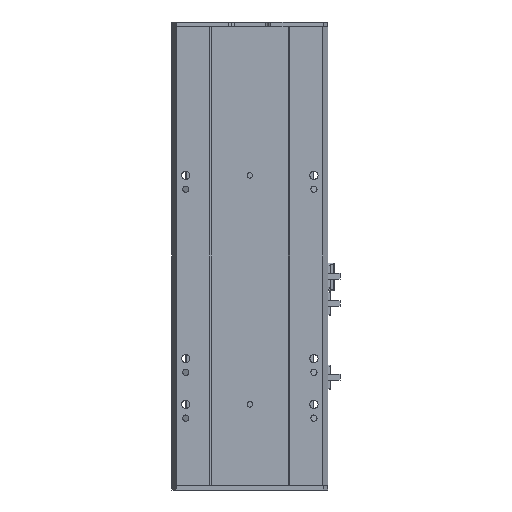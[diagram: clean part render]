
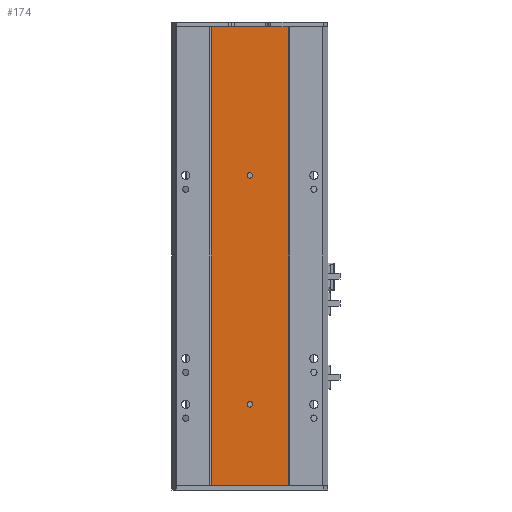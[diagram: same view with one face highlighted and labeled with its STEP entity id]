
A CAD part, front view. The second image highlights one B-rep face of the part: STEP entity #174.
In plain terms, the highlighted planar face has unit normal (0, -1, 0).
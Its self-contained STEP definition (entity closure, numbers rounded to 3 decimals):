
#128 = EDGE_LOOP ( 'NONE', ( #27129, #17865 ) ) ;
#174 = ADVANCED_FACE ( 'NONE', ( #28296, #3400, #16138 ), #23345, .F. ) ;
#269 = AXIS2_PLACEMENT_3D ( 'NONE', #11511, #27433, #13772 ) ;
#465 = DIRECTION ( 'NONE',  ( -1., 0., 0. ) ) ;
#619 = DIRECTION ( 'NONE',  ( 0., 0., 1. ) ) ;
#630 = LINE ( 'NONE', #9638, #22619 ) ;
#987 = ORIENTED_EDGE ( 'NONE', *, *, #20400, .T. ) ;
#1572 = VERTEX_POINT ( 'NONE', #16932 ) ;
#1776 = EDGE_CURVE ( 'NONE', #13521, #14939, #26409, .T. ) ;
#1841 = CIRCLE ( 'NONE', #20092, 3. ) ;
#3400 = FACE_BOUND ( 'NONE', #128, .T. ) ;
#3779 = EDGE_CURVE ( 'NONE', #14939, #13521, #26356, .T. ) ;
#4287 = VERTEX_POINT ( 'NONE', #5368 ) ;
#4353 = EDGE_LOOP ( 'NONE', ( #987, #16550, #16190, #21393 ) ) ;
#4597 = AXIS2_PLACEMENT_3D ( 'NONE', #22525, #8916, #24854 ) ;
#5201 = ORIENTED_EDGE ( 'NONE', *, *, #25670, .T. ) ;
#5368 = CARTESIAN_POINT ( 'NONE',  ( 126.916, 2.57, 0. ) ) ;
#6158 = VERTEX_POINT ( 'NONE', #17639 ) ;
#7031 = CARTESIAN_POINT ( 'NONE',  ( 42.916, 2.57, 0. ) ) ;
#7522 = CARTESIAN_POINT ( 'NONE',  ( 126.916, 2.57, 0. ) ) ;
#8313 = LINE ( 'NONE', #18011, #19699 ) ;
#8486 = CIRCLE ( 'NONE', #269, 3. ) ;
#8916 = DIRECTION ( 'NONE',  ( 0., 1., 0. ) ) ;
#9062 = VECTOR ( 'NONE', #9809, 1000. ) ;
#9081 = CARTESIAN_POINT ( 'NONE',  ( 126.916, 2.57, 501. ) ) ;
#9096 = CARTESIAN_POINT ( 'NONE',  ( 85., 2.57, 341.5 ) ) ;
#9638 = CARTESIAN_POINT ( 'NONE',  ( 42.916, 2.57, 0. ) ) ;
#9809 = DIRECTION ( 'NONE',  ( 0., 0., 1. ) ) ;
#9895 = LINE ( 'NONE', #18524, #21281 ) ;
#10244 = AXIS2_PLACEMENT_3D ( 'NONE', #24617, #10977, #26906 ) ;
#10977 = DIRECTION ( 'NONE',  ( 0., 1., 0. ) ) ;
#11511 = CARTESIAN_POINT ( 'NONE',  ( 85., 2.57, 88.5 ) ) ;
#12013 = DIRECTION ( 'NONE',  ( 0., 1., 0. ) ) ;
#13211 = CARTESIAN_POINT ( 'NONE',  ( 85., 2.57, 335.5 ) ) ;
#13521 = VERTEX_POINT ( 'NONE', #13211 ) ;
#13772 = DIRECTION ( 'NONE',  ( 0., 0., 1. ) ) ;
#13799 = EDGE_CURVE ( 'NONE', #6158, #1572, #1841, .T. ) ;
#13829 = CARTESIAN_POINT ( 'NONE',  ( 42.916, 2.57, 0. ) ) ;
#14939 = VERTEX_POINT ( 'NONE', #9096 ) ;
#16138 = FACE_OUTER_BOUND ( 'NONE', #4353, .T. ) ;
#16190 = ORIENTED_EDGE ( 'NONE', *, *, #16318, .F. ) ;
#16318 = EDGE_CURVE ( 'NONE', #4287, #22163, #8313, .T. ) ;
#16453 = DIRECTION ( 'NONE',  ( 0., 1., 0. ) ) ;
#16550 = ORIENTED_EDGE ( 'NONE', *, *, #26946, .F. ) ;
#16808 = AXIS2_PLACEMENT_3D ( 'NONE', #7031, #16453, #20278 ) ;
#16932 = CARTESIAN_POINT ( 'NONE',  ( 85., 2.57, 85.5 ) ) ;
#17639 = CARTESIAN_POINT ( 'NONE',  ( 85., 2.57, 91.5 ) ) ;
#17865 = ORIENTED_EDGE ( 'NONE', *, *, #3779, .T. ) ;
#18011 = CARTESIAN_POINT ( 'NONE',  ( 42.916, 2.57, 0. ) ) ;
#18524 = CARTESIAN_POINT ( 'NONE',  ( 42.916, 2.57, 501. ) ) ;
#18654 = ORIENTED_EDGE ( 'NONE', *, *, #13799, .T. ) ;
#18666 = EDGE_LOOP ( 'NONE', ( #5201, #18654 ) ) ;
#19699 = VECTOR ( 'NONE', #20313, 1000. ) ;
#20092 = AXIS2_PLACEMENT_3D ( 'NONE', #25640, #12013, #27928 ) ;
#20278 = DIRECTION ( 'NONE',  ( 0., 0., 1. ) ) ;
#20285 = VERTEX_POINT ( 'NONE', #9081 ) ;
#20313 = DIRECTION ( 'NONE',  ( -1., 0., 0. ) ) ;
#20400 = EDGE_CURVE ( 'NONE', #20285, #27695, #9895, .T. ) ;
#21281 = VECTOR ( 'NONE', #465, 1000. ) ;
#21393 = ORIENTED_EDGE ( 'NONE', *, *, #28593, .T. ) ;
#22163 = VERTEX_POINT ( 'NONE', #13829 ) ;
#22525 = CARTESIAN_POINT ( 'NONE',  ( 85., 2.57, 338.5 ) ) ;
#22619 = VECTOR ( 'NONE', #619, 1000. ) ;
#23345 = PLANE ( 'NONE',  #16808 ) ;
#24097 = CARTESIAN_POINT ( 'NONE',  ( 42.916, 2.57, 501. ) ) ;
#24617 = CARTESIAN_POINT ( 'NONE',  ( 85., 2.57, 338.5 ) ) ;
#24854 = DIRECTION ( 'NONE',  ( 0., 0., 1. ) ) ;
#25640 = CARTESIAN_POINT ( 'NONE',  ( 85., 2.57, 88.5 ) ) ;
#25670 = EDGE_CURVE ( 'NONE', #1572, #6158, #8486, .T. ) ;
#26356 = CIRCLE ( 'NONE', #4597, 3. ) ;
#26409 = CIRCLE ( 'NONE', #10244, 3. ) ;
#26906 = DIRECTION ( 'NONE',  ( 0., 0., 1. ) ) ;
#26946 = EDGE_CURVE ( 'NONE', #22163, #27695, #630, .T. ) ;
#27129 = ORIENTED_EDGE ( 'NONE', *, *, #1776, .T. ) ;
#27240 = LINE ( 'NONE', #7522, #9062 ) ;
#27433 = DIRECTION ( 'NONE',  ( 0., 1., 0. ) ) ;
#27695 = VERTEX_POINT ( 'NONE', #24097 ) ;
#27928 = DIRECTION ( 'NONE',  ( 0., 0., 1. ) ) ;
#28296 = FACE_BOUND ( 'NONE', #18666, .T. ) ;
#28593 = EDGE_CURVE ( 'NONE', #4287, #20285, #27240, .T. ) ;
